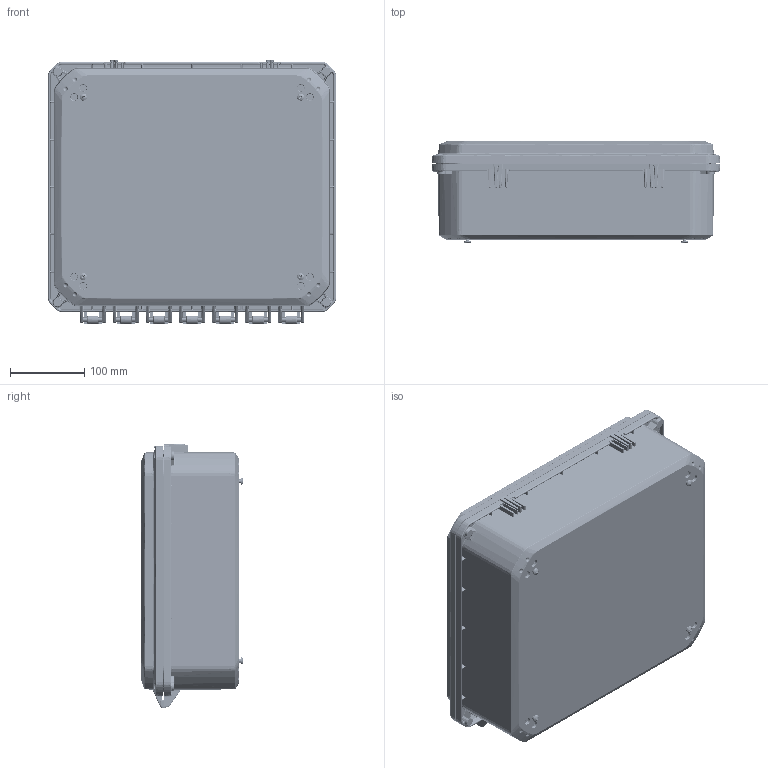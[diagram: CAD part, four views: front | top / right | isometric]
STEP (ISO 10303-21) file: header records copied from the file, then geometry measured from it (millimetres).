
FILE_DESCRIPTION (( 'STEP AP214' ), '1' );
FILE_NAME ('ZH-141204-94.STEP', '2024-10-25T19:39:32', ( '' ), ( '' ), 'SwSTEP 2.0', 'SolidWorks 2024', '' );
FILE_SCHEMA (( 'AUTOMOTIVE_DESIGN' ));
Length unit declared in the file: inch
Products named in the file (10): ZH-1412G; Z_-14124BI_ZH-14124BI-01; Z_-14121CG_ZH-14121CG-01; SCREWS-049_SCREWS-049; SCREWS-047_default; INSERTS-4; ZH-141204-94; Z_-14124B_ZH-14124B-01; Z_-14121C_ZH-14121C-01; LABEL-104
Assembly tree (26 placements, depth 3):
  ZH-141204-94
    Z_-14124BI_ZH-14124BI-01
      Z_-14124B_ZH-14124B-01
      INSERTS-4  x12
      LABEL-104
    Z_-14121CG_ZH-14121CG-01
      Z_-14121C_ZH-14121C-01
      ZH-1412G
    SCREWS-047_default  x4
    SCREWS-049_SCREWS-049  x4
Bounding box: 387.1 x 137.95 x 355.47 mm (x, y, z)
Volume: 2087617.3 mm3; surface area: 988240.5 mm2
Topology: 24 solids, 24 shells, 7131 faces, 17561 edges, 10412 vertices
Faces by surface type: bspline 2231, cylinder 1770, plane 1546, cone 832, torus 712, sphere 40
Entity records: 273727 total; most frequent: CARTESIAN_POINT 154952, ORIENTED_EDGE 27922, DIRECTION 21416, EDGE_CURVE 13961, AXIS2_PLACEMENT_3D 8771, VERTEX_POINT 8178, EDGE_LOOP 6073, FACE_OUTER_BOUND 5915
